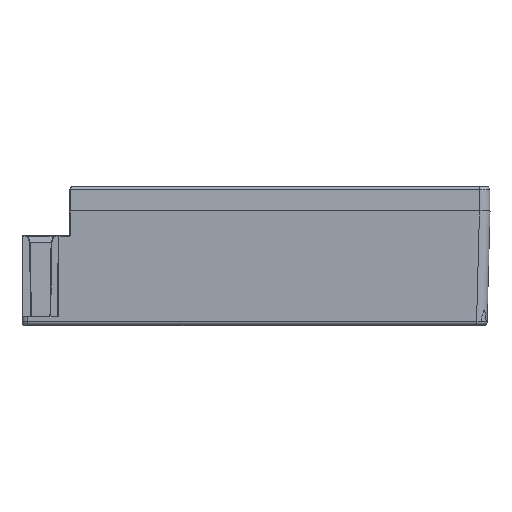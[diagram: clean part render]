
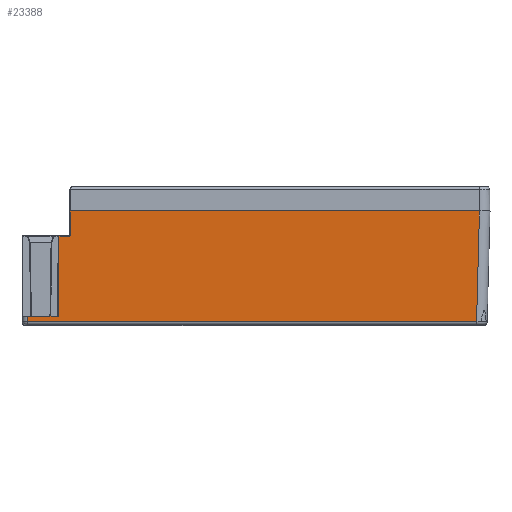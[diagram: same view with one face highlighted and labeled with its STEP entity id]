
A CAD part, top view. The second image highlights one B-rep face of the part: STEP entity #23388.
In plain terms, the highlighted planar face has unit normal (0, -0.026, 1).
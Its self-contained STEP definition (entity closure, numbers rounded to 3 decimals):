
#164 = DIRECTION ( 'NONE',  ( 1., 0., 0. ) ) ;
#599 = VECTOR ( 'NONE', #22951, 1000. ) ;
#763 = VERTEX_POINT ( 'NONE', #6727 ) ;
#1007 = CARTESIAN_POINT ( 'NONE',  ( 129.267, -3.035, 37.616 ) ) ;
#1148 = EDGE_CURVE ( 'NONE', #26358, #763, #29332, .T. ) ;
#1391 = DIRECTION ( 'NONE',  ( 0.026, 0.999, 0.026 ) ) ;
#1685 = EDGE_CURVE ( 'NONE', #22686, #28992, #17704, .T. ) ;
#1838 = VERTEX_POINT ( 'NONE', #4885 ) ;
#3318 = LINE ( 'NONE', #22727, #13497 ) ;
#3482 = CARTESIAN_POINT ( 'NONE',  ( 13.3, 32.5, 38.546 ) ) ;
#4885 = CARTESIAN_POINT ( 'NONE',  ( 130.198, 32.5, 38.546 ) ) ;
#5831 = ORIENTED_EDGE ( 'NONE', *, *, #1148, .T. ) ;
#6035 = LINE ( 'NONE', #3482, #27131 ) ;
#6727 = CARTESIAN_POINT ( 'NONE',  ( 1.487, 0.974, 37.721 ) ) ;
#7156 = CARTESIAN_POINT ( 'NONE',  ( 1.5, 2.5, 37.761 ) ) ;
#7264 = VERTEX_POINT ( 'NONE', #8280 ) ;
#7444 = CARTESIAN_POINT ( 'NONE',  ( 13.302, 25.295, 38.358 ) ) ;
#7539 = CARTESIAN_POINT ( 'NONE',  ( 11.301, 25.295, 38.358 ) ) ;
#8280 = CARTESIAN_POINT ( 'NONE',  ( 13.302, 25.295, 38.358 ) ) ;
#8292 = EDGE_CURVE ( 'NONE', #26358, #25027, #3318, .T. ) ;
#9079 = LINE ( 'NONE', #9246, #30034 ) ;
#9246 = CARTESIAN_POINT ( 'NONE',  ( 10.278, 0.026, 37.696 ) ) ;
#9478 = VECTOR ( 'NONE', #14466, 1000. ) ;
#9693 = FACE_OUTER_BOUND ( 'NONE', #33621, .T. ) ;
#10217 = EDGE_CURVE ( 'NONE', #763, #21031, #22754, .T. ) ;
#11019 = ORIENTED_EDGE ( 'NONE', *, *, #22536, .F. ) ;
#11540 = EDGE_CURVE ( 'NONE', #25027, #17515, #9079, .T. ) ;
#11840 = CARTESIAN_POINT ( 'NONE',  ( 13.478, -0.002, 37.695 ) ) ;
#12607 = DIRECTION ( 'NONE',  ( 0., -1., -0.026 ) ) ;
#13153 = AXIS2_PLACEMENT_3D ( 'NONE', #26388, #18109, #12607 ) ;
#13497 = VECTOR ( 'NONE', #164, 1000. ) ;
#14466 = DIRECTION ( 'NONE',  ( 1., 0., 0. ) ) ;
#14654 = CARTESIAN_POINT ( 'NONE',  ( 1.479, 0.103, 37.698 ) ) ;
#15101 = LINE ( 'NONE', #1007, #24891 ) ;
#15403 = ORIENTED_EDGE ( 'NONE', *, *, #18206, .T. ) ;
#16212 = CARTESIAN_POINT ( 'NONE',  ( 10.3, 2.5, 37.761 ) ) ;
#16225 = ORIENTED_EDGE ( 'NONE', *, *, #11540, .F. ) ;
#16794 = ORIENTED_EDGE ( 'NONE', *, *, #8292, .F. ) ;
#17045 = CARTESIAN_POINT ( 'NONE',  ( 13.3, 0.974, 37.721 ) ) ;
#17200 = DIRECTION ( 'NONE',  ( 1., 0., 0. ) ) ;
#17337 = DIRECTION ( 'NONE',  ( -0.009, -1., -0.026 ) ) ;
#17515 = VERTEX_POINT ( 'NONE', #27521 ) ;
#17704 = LINE ( 'NONE', #11840, #36170 ) ;
#17711 = CARTESIAN_POINT ( 'NONE',  ( 13.702, 25.691, 38.368 ) ) ;
#18109 = DIRECTION ( 'NONE',  ( 0., -0.026, 1. ) ) ;
#18206 = EDGE_CURVE ( 'NONE', #7264, #17515, #32683, .T. ) ;
#18735 = DIRECTION ( 'NONE',  ( -1., 0., 0. ) ) ;
#18847 = CARTESIAN_POINT ( 'NONE',  ( 13.762, 32.5, 38.546 ) ) ;
#20993 = ORIENTED_EDGE ( 'NONE', *, *, #28326, .T. ) ;
#21031 = VERTEX_POINT ( 'NONE', #21961 ) ;
#21961 = CARTESIAN_POINT ( 'NONE',  ( 129.372, 0.974, 37.721 ) ) ;
#22536 = EDGE_CURVE ( 'NONE', #22686, #1838, #6035, .T. ) ;
#22686 = VERTEX_POINT ( 'NONE', #18847 ) ;
#22727 = CARTESIAN_POINT ( 'NONE',  ( 13.3, 2.5, 37.761 ) ) ;
#22754 = LINE ( 'NONE', #17045, #9478 ) ;
#22951 = DIRECTION ( 'NONE',  ( -0.009, -1., -0.026 ) ) ;
#23388 = ADVANCED_FACE ( 'NONE', ( #9693 ), #27101, .T. ) ;
#24138 = CARTESIAN_POINT ( 'NONE',  ( 13.535, 25.295, 38.358 ) ) ;
#24891 = VECTOR ( 'NONE', #1391, 1000. ) ;
#25027 = VERTEX_POINT ( 'NONE', #16212 ) ;
#26030 = ORIENTED_EDGE ( 'NONE', *, *, #1685, .T. ) ;
#26358 = VERTEX_POINT ( 'NONE', #7156 ) ;
#26388 = CARTESIAN_POINT ( 'NONE',  ( 13.3, 0., 37.695 ) ) ;
#26736 = CARTESIAN_POINT ( 'NONE',  ( 13.7, 25.459, 38.362 ) ) ;
#26821 = EDGE_CURVE ( 'NONE', #28992, #7264, #35569, .T. ) ;
#27101 = PLANE ( 'NONE',  #13153 ) ;
#27131 = VECTOR ( 'NONE', #17200, 1000. ) ;
#27521 = CARTESIAN_POINT ( 'NONE',  ( 10.499, 25.295, 38.358 ) ) ;
#28326 = EDGE_CURVE ( 'NONE', #21031, #1838, #15101, .T. ) ;
#28992 = VERTEX_POINT ( 'NONE', #17711 ) ;
#29332 = LINE ( 'NONE', #14654, #599 ) ;
#29531 = ORIENTED_EDGE ( 'NONE', *, *, #10217, .T. ) ;
#29546 = ORIENTED_EDGE ( 'NONE', *, *, #26821, .T. ) ;
#30034 = VECTOR ( 'NONE', #31792, 1000. ) ;
#31792 = DIRECTION ( 'NONE',  ( 0.009, 1., 0.026 ) ) ;
#32683 = LINE ( 'NONE', #7539, #35928 ) ;
#33621 = EDGE_LOOP ( 'NONE', ( #26030, #29546, #15403, #16225, #16794, #5831, #29531, #20993, #11019 ) ) ;
#35337 = CARTESIAN_POINT ( 'NONE',  ( 13.702, 25.691, 38.368 ) ) ;
#35569 =( BOUNDED_CURVE ( )  B_SPLINE_CURVE ( 3, ( #35337, #26736, #24138, #7444 ),
 .UNSPECIFIED., .F., .F. ) 
 B_SPLINE_CURVE_WITH_KNOTS ( ( 4, 4 ),
 ( 4.721, 6.283 ),
 .UNSPECIFIED. ) 
 CURVE ( )  GEOMETRIC_REPRESENTATION_ITEM ( )  RATIONAL_B_SPLINE_CURVE ( ( 1., 0.807, 0.807, 1. ) ) 
 REPRESENTATION_ITEM ( '' )  );
#35928 = VECTOR ( 'NONE', #18735, 1000. ) ;
#36170 = VECTOR ( 'NONE', #17337, 1000. ) ;
